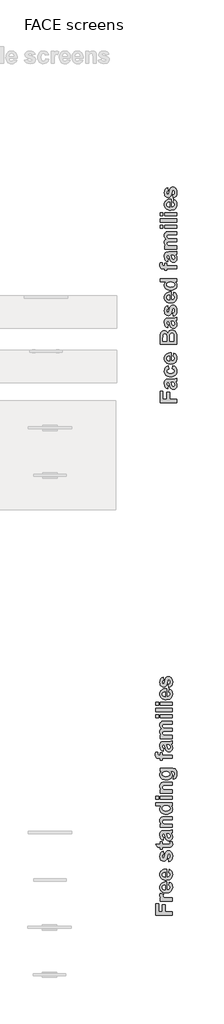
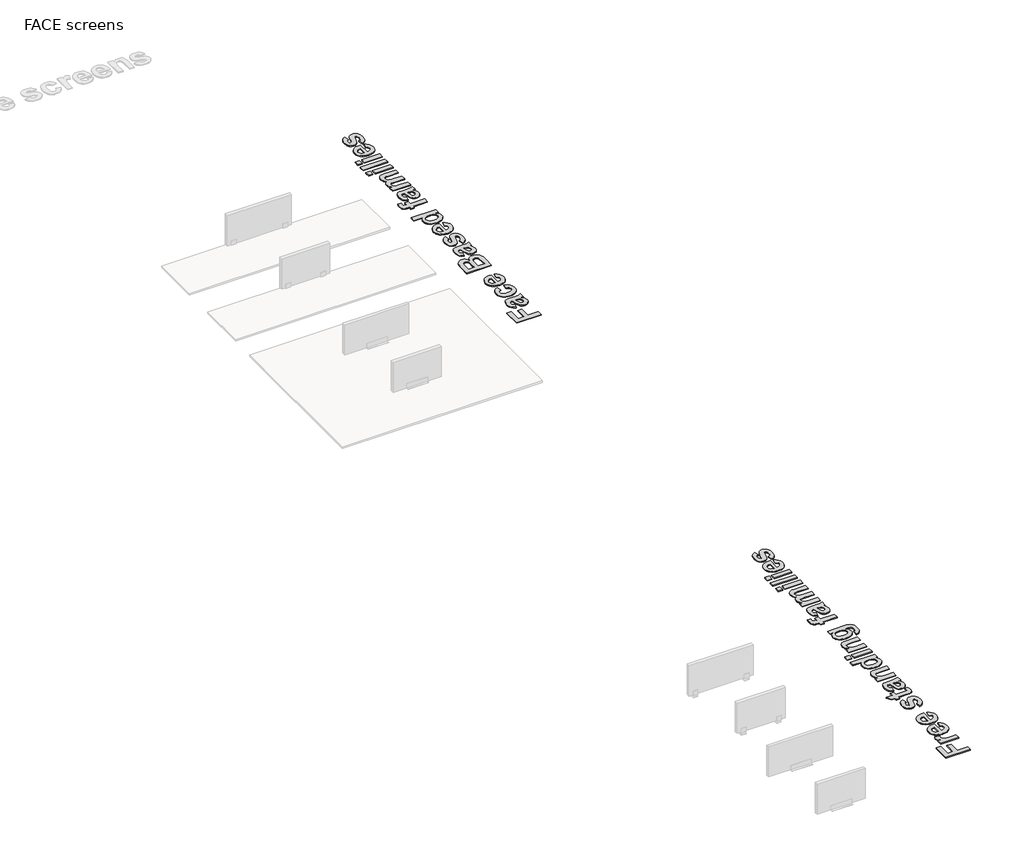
# One storey, part 4 of 5: 2 proxies.
"""IFC4 building model written with IfcOpenShell, lengths in millimetres."""

from ifc_helpers import new_model, si_unit, origin, origin_with_axes, place, context, project, spatial, polyline, outline, extrude, element, save

model = new_model("IFC4")

# Units and contexts
model_context = context("Model", 3, world=origin())
ifc_project = project(units=[si_unit("LENGTHUNIT", "METRE", prefix="MILLI")], contexts=[model_context])

# Site, building, storey
site = spatial("IfcSite", under=ifc_project)
building = spatial("IfcBuilding", under=site)
storey = spatial("IfcBuildingStorey", under=building, Name="FACE screens", Elevation=0.0)

# Proxies
placement = place(None, origin())
element("IfcBuildingElementProxy", 1, Name="300mm Arial", ObjectType="300mm Arial", at=placement, inside=storey, context=model_context, shape_type="SweptSolid", body=[
    extrude(outline(polyline([(13457.4869582, 22660.9583317), (13151.4091382, 22660.9583317), (13151.4091382, 22869.8685898), (13204.8512973, 22869.8685898), (13204.8512973, 22719.2588689), (13272.8685906, 22719.2588689), (13272.8685906, 22850.4350775), (13326.3107496, 22850.4350775), (13326.3107496, 22719.2588689), (13457.4869582, 22719.2588689), (13457.4869582, 22660.9583317)])), origin_with_axes(), (0.0, 0.0, 1.0), 10.0),
    extrude(outline(polyline([(13302.0188592, 22967.0361517), (13292.302103, 22913.5939927), (13264.2905168, 22925.1800858), (13244.6292679, 22942.9340417), (13233.0147078, 22968.8105984), (13229.1431877, 23004.7644941), (13231.4869756, 23037.2738757), (13238.5183392, 23060.2562814), (13249.1460413, 23075.7803177), (13262.2788446, 23085.9145907), (13282.689726, 23091.4941343), (13315.1516625, 23093.3539822), (13384.0799017, 23093.3539822), (13427.5016559, 23096.4284246), (13457.4869582, 23107.9291165), (13457.4869582, 23049.6285794), (13438.9643917, 23044.162904), (13431.6009124, 23042.1132757), (13445.0278753, 23027.0257344), (13454.6402523, 23010.9133789), (13460.4190653, 22993.7382532), (13462.3453363, 22975.4624012), (13457.6672496, 22945.7333025), (13443.6329894, 22923.0450563), (13422.4629864, 22908.6691915), (13396.3776712, 22903.8772365), (13378.5003581, 22906.0122659), (13362.6726732, 22912.4173542), (13349.596804, 22922.6749846), (13339.974938, 22936.36764), (13326.2348375, 22980.7762523), (13311.7356154, 23035.0534451), (13305.5867306, 23035.0534451), (13290.4422551, 23033.2410423), (13280.3838942, 23027.803834), (13274.7474165, 23017.3564233), (13272.8685906, 23000.5134133), (13274.481724, 22988.4244022), (13279.321124, 22979.3339213), (13288.2218245, 22972.463871), (13302.0188592, 22967.0361517)]), holes=[polyline([(13355.4610182, 23035.0534451), (13363.545663, 23002.1834808), (13372.7689902, 22972.7295636), (13381.0623934, 22964.8157211), (13391.3674688, 22962.1777736), (13401.7010113, 22964.293825), (13410.5352887, 22970.6419792), (13416.5987723, 22980.2543562), (13418.6199335, 22992.1630759), (13416.2666566, 23006.4535396), (13409.2068259, 23020.0228378), (13401.2740054, 23028.1833948), (13391.7470296, 23032.9279046), (13366.0128081, 23035.0534451), (13355.4610182, 23035.0534451)])]), origin_with_axes(), (0.0, 0.0, 1.0), 10.0),
    extrude(outline(polyline([(13297.1604811, 23336.272887), (13306.8772373, 23277.9723498), (13292.0458994, 23273.5030215), (13281.4087083, 23265.560712), (13275.00362, 23254.4300919), (13272.8685906, 23240.3958317), (13276.8729569, 23221.9112213), (13288.8860559, 23207.6017796), (13310.2743063, 23198.4353866), (13342.4041271, 23195.3799222), (13378.0259071, 23198.5587438), (13401.3878736, 23208.0952086), (13414.3119185, 23222.9834806), (13418.6199335, 23242.2177235), (13416.1622773, 23256.7833688), (13408.789309, 23268.445374), (13395.4003022, 23277.1468051), (13374.8945306, 23282.8307279), (13384.6112868, 23341.1312651), (13418.382708, 23328.3685335), (13442.7220435, 23307.5401353), (13457.4395131, 23278.4562898), (13462.3453363, 23240.9272168), (13460.4143208, 23218.4074008), (13454.6212743, 23198.2930513), (13444.9661967, 23180.5841682), (13431.4490881, 23165.2807517), (13414.5206769, 23152.9426538), (13394.6316916, 23144.1297267), (13371.7821321, 23138.8419705), (13345.9719985, 23137.0793851), (13319.8700775, 23138.8301092), (13296.8283654, 23144.0822816), (13276.8468621, 23152.8359023), (13259.9255677, 23165.0909713), (13246.4582765, 23180.3350814), (13236.8387827, 23198.0558258), (13231.0670865, 23218.2532042), (13229.1431877, 23240.9272168), (13233.3468235, 23276.0176118), (13245.9577307, 23303.099274), (13267.1656898, 23322.9313252), (13297.1604811, 23336.272887)])), origin_with_axes(), (0.0, 0.0, 1.0), 10.0),
    extrude(outline(polyline([(13389.4696649, 23511.1744984), (13399.1864211, 23569.4750355), (13426.3914406, 23555.279462), (13446.2140028, 23534.7072673), (13458.3125029, 23507.9672097), (13462.3453363, 23475.2680478), (13459.9683369, 23448.8648504), (13452.8373386, 23426.1339037), (13440.9523414, 23407.0752076), (13424.3133453, 23391.6887621), (13408.0918661, 23382.3230996), (13389.8682037, 23375.6333407), (13347.4143295, 23370.2815336), (13321.205657, 23372.0559803), (13297.9955148, 23377.3793204), (13277.7839028, 23386.2515538), (13260.570821, 23398.6726806), (13246.8212315, 23413.8076671), (13237.0000961, 23430.8214794), (13231.1074148, 23449.7141177), (13229.1431877, 23470.4855818), (13231.1596044, 23493.5676223), (13237.2088545, 23514.0781384), (13247.290938, 23532.0171302), (13261.4058548, 23547.3845976), (13279.6864513, 23559.6301776), (13302.2655737, 23568.2035069), (13329.143222, 23573.1045856), (13360.3193963, 23574.3334136), (13360.3193963, 23428.5820708), (13384.8769793, 23432.3207445), (13403.2856776, 23442.3221713), (13414.7863695, 23457.068108), (13418.6199335, 23475.0403113), (13416.8929319, 23487.2811467), (13411.7119271, 23497.4343978), (13402.6973584, 23505.4241524), (13389.4696649, 23511.1744984)]), holes=[polyline([(13326.3107496, 23516.0328765), (13303.2619208, 23512.4839831), (13286.4948229, 23503.0518975), (13276.2751487, 23489.349753), (13272.8685906, 23472.990683), (13276.4554401, 23455.7206672), (13287.2159884, 23441.7148741), (13304.2013337, 23432.529503), (13326.3107496, 23429.5689288), (13326.3107496, 23516.0328765)])]), origin_with_axes(), (0.0, 0.0, 1.0), 10.0),
    extrude(outline(polyline([(13151.4091382, 23734.6598908), (13151.4091382, 23860.2945118), (13154.4456245, 23915.9001673), (13159.1426893, 23933.2650734), (13167.160911, 23948.6942195), (13178.4338664, 23961.95038), (13192.8951324, 23972.7963296), (13209.9279228, 23980.0269626), (13228.9154513, 23982.4371736), (13249.6015143, 23979.5620006), (13268.5415976, 23970.9364817), (13284.3503045, 23957.3766725), (13295.6422379, 23939.6986288), (13306.6115447, 23962.0547592), (13323.2742633, 23978.5656536), (13344.5106895, 23988.7568607), (13369.2011188, 23992.1539298), (13389.7068904, 23989.7152517), (13409.6243428, 23982.3992175), (13427.2739194, 23970.8605695), (13440.9760639, 23955.7540502), (13450.4555946, 23936.899368), (13455.43733, 23914.1162316), (13457.4869582, 23839.2668441), (13457.4869582, 23734.6598908), (13151.4091382, 23734.6598908)]), holes=[polyline([(13204.8512973, 23792.9604279), (13272.8685906, 23792.9604279), (13272.8685906, 23837.4449523), (13271.8817325, 23886.7878549), (13268.3328392, 23902.3213801), (13261.3299426, 23914.1541877), (13251.2146476, 23921.6410243), (13238.3285588, 23924.1366365), (13226.0023222, 23921.982629), (13216.2001649, 23915.5206066), (13209.3396036, 23904.8264813), (13205.8381553, 23889.9761655), (13204.8512973, 23831.979277), (13204.8512973, 23792.9604279)]), polyline([(13326.3107496, 23792.9604279), (13404.0447992, 23792.9604279), (13404.0447992, 23854.6011), (13402.2229074, 23900.3002189), (13398.1521179, 23913.793605), (13390.6463033, 23924.5161972), (13379.8572879, 23931.5190938), (13365.936896, 23933.8533926), (13353.8668629, 23932.0504789), (13343.7705459, 23926.6417377), (13335.8946596, 23917.8359274), (13330.4859183, 23905.8418064), (13327.3545418, 23884.2827536), (13326.3107496, 23846.7821477), (13326.3107496, 23792.9604279)])]), origin_with_axes(), (0.0, 0.0, 1.0), 10.0),
    extrude(outline(polyline([(13302.0188592, 24089.3214917), (13292.302103, 24035.8793326), (13264.2905168, 24047.4654257), (13244.6292679, 24065.2193816), (13233.0147078, 24091.0959384), (13229.1431877, 24127.0498341), (13231.4869756, 24159.5592156), (13238.5183392, 24182.5416214), (13249.1460413, 24198.0656576), (13262.2788446, 24208.1999307), (13282.689726, 24213.7794743), (13315.1516625, 24215.6393222), (13384.0799017, 24215.6393222), (13427.5016559, 24218.7137645), (13457.4869582, 24230.2144564), (13457.4869582, 24171.9139193), (13438.9643917, 24166.4482439), (13431.6009124, 24164.3986157), (13445.0278753, 24149.3110743), (13454.6402523, 24133.1987189), (13460.4190653, 24116.0235932), (13462.3453363, 24097.7477412), (13457.6672496, 24068.0186424), (13443.6329894, 24045.3303963), (13422.4629864, 24030.9545314), (13396.3776712, 24026.1625765), (13378.5003581, 24028.2976059), (13362.6726732, 24034.7026942), (13349.596804, 24044.9603245), (13339.974938, 24058.65298), (13326.2348375, 24103.0615922), (13311.7356154, 24157.338785), (13305.5867306, 24157.338785), (13290.4422551, 24155.5263823), (13280.3838942, 24150.089174), (13274.7474165, 24139.6417632), (13272.8685906, 24122.7987532), (13274.481724, 24110.7097421), (13279.321124, 24101.6192612), (13288.2218245, 24094.749211), (13302.0188592, 24089.3214917)]), holes=[polyline([(13355.4610182, 24157.338785), (13363.545663, 24124.4688207), (13372.7689902, 24095.0149035), (13381.0623934, 24087.1010611), (13391.3674688, 24084.4631136), (13401.7010113, 24086.579165), (13410.5352887, 24092.9273192), (13416.5987723, 24102.5396962), (13418.6199335, 24114.4484159), (13416.2666566, 24128.7388796), (13409.2068259, 24142.3081778), (13401.2740054, 24150.4687347), (13391.7470296, 24155.2132446), (13366.0128081, 24157.338785), (13355.4610182, 24157.338785)])]), origin_with_axes(), (0.0, 0.0, 1.0), 10.0),
    extrude(outline(polyline([(13394.328043, 24249.6479688), (13384.6112868, 24307.948506), (13399.3002893, 24313.4995825), (13409.9659475, 24322.865245), (13416.456437, 24336.36812), (13418.6199335, 24354.3308343), (13416.5513272, 24373.8212808), (13410.3455083, 24387.8080959), (13403.5893262, 24393.5015077), (13394.8594281, 24395.3993117), (13383.9280774, 24391.3759673), (13376.2609494, 24372.3220157), (13361.3442104, 24316.0141727), (13347.7179781, 24284.9471222), (13337.806697, 24273.7548234), (13326.1399473, 24265.7603243), (13312.7177289, 24260.9636248), (13297.5400419, 24259.364725), (13270.9138525, 24264.8493784), (13248.8803488, 24281.3033386), (13240.2453408, 24293.786144), (13234.077478, 24309.2959468), (13229.1431877, 24349.3965441), (13233.128576, 24387.6372935), (13245.0847409, 24414.6050876), (13264.859858, 24432.615247), (13292.302103, 24443.9830926), (13302.0188592, 24385.6825555), (13289.5502873, 24381.3935186), (13280.3838942, 24374.4475561), (13274.7474165, 24364.4271513), (13272.8685906, 24350.9147872), (13274.4627459, 24334.3090027), (13279.2452118, 24323.2068497), (13291.0875085, 24317.6652622), (13301.6392984, 24323.2068497), (13308.6042389, 24339.8221232), (13317.9604123, 24374.7891608), (13329.7457748, 24412.2612997), (13343.9982824, 24436.3918769), (13362.8055195, 24449.3728558), (13387.7995974, 24453.6998488), (13402.5573953, 24452.1317883), (13416.2381895, 24447.4276068), (13440.3687666, 24428.6108807), (13449.9835159, 24414.5600147), (13456.8511939, 24397.496385), (13462.3453363, 24354.3308343), (13457.7716288, 24314.3535943), (13444.0505063, 24283.6945716), (13422.4724755, 24262.1829639), (13394.328043, 24249.6479688)])), origin_with_axes(), (0.0, 0.0, 1.0), 10.0),
    extrude(outline(polyline([(13389.4696649, 24633.4598383), (13399.1864211, 24691.7603755), (13426.3914406, 24677.564802), (13446.2140028, 24656.9926072), (13458.3125029, 24630.2525497), (13462.3453363, 24597.5533877), (13459.9683369, 24571.1501904), (13452.8373386, 24548.4192436), (13440.9523414, 24529.3605475), (13424.3133453, 24513.9741021), (13408.0918661, 24504.6084396), (13389.8682037, 24497.9186807), (13347.4143295, 24492.5668736), (13321.205657, 24494.3413203), (13297.9955148, 24499.6646603), (13277.7839028, 24508.5368938), (13260.570821, 24520.9580206), (13246.8212315, 24536.093007), (13237.0000961, 24553.1068194), (13231.1074148, 24571.9994576), (13229.1431877, 24592.7709218), (13231.1596044, 24615.8529622), (13237.2088545, 24636.3634784), (13247.290938, 24654.3024701), (13261.4058548, 24669.6699376), (13279.6864513, 24681.9155175), (13302.2655737, 24690.4888468), (13329.143222, 24695.3899255), (13360.3193963, 24696.6187536), (13360.3193963, 24550.8674107), (13384.8769793, 24554.6060845), (13403.2856776, 24564.6075113), (13414.7863695, 24579.3534479), (13418.6199335, 24597.3256512), (13416.8929319, 24609.5664867), (13411.7119271, 24619.7197378), (13402.6973584, 24627.7094924), (13389.4696649, 24633.4598383)]), holes=[polyline([(13326.3107496, 24638.3182164), (13303.2619208, 24634.7693231), (13286.4948229, 24625.3372375), (13276.2751487, 24611.635093), (13272.8685906, 24595.276023), (13276.4554401, 24578.0060071), (13287.2159884, 24564.000214), (13304.2013337, 24554.8148429), (13326.3107496, 24551.8542688), (13326.3107496, 24638.3182164)])]), origin_with_axes(), (0.0, 0.0, 1.0), 10.0),
    extrude(outline(polyline([(13457.4869582, 24939.5376583), (13457.4869582, 24881.2371212), (13425.3002033, 24881.2371212), (13441.6497843, 24867.0130806), (13453.1979213, 24850.4547412), (13460.0584826, 24832.6628292), (13462.3453363, 24814.738071), (13460.4095763, 24797.0623995), (13454.6022962, 24780.7009573), (13444.9234961, 24765.6537443), (13431.373176, 24751.9207605), (13414.3546191, 24740.479375), (13394.2711089, 24732.3069567), (13371.1226453, 24727.4035058), (13344.9092283, 24725.7690221), (13318.2545719, 24727.4011335), (13294.9969846, 24732.2974677), (13275.1364663, 24740.4580247), (13258.6730171, 24751.8828044), (13245.7537168, 24765.8031963), (13236.5256451, 24781.4505898), (13230.9888021, 24798.8249849), (13229.1431877, 24817.9263816), (13231.0552252, 24835.6044254), (13236.7913376, 24852.0488965), (13246.351525, 24867.2597951), (13259.7357873, 24881.2371212), (13151.4091382, 24881.2371212), (13151.4091382, 24939.5376583), (13457.4869582, 24939.5376583)]), holes=[polyline([(13341.4931812, 24784.0695593), (13373.2244631, 24786.4987483), (13394.7835159, 24793.7863155), (13412.6608291, 24810.6198364), (13417.1301574, 24821.1289258), (13418.6199335, 24833.032901), (13414.1506052, 24851.6313797), (13400.7426203, 24867.193372), (13378.452913, 24877.7261839), (13347.3384173, 24881.2371212), (13313.2633475, 24877.8305631), (13290.2904308, 24867.6108889), (13277.2240507, 24852.0583855), (13272.8685906, 24832.6533402), (13277.1766056, 24813.6753008), (13290.1006504, 24798.0373963), (13311.564813, 24787.5615185), (13341.4931812, 24784.0695593)])]), origin_with_axes(), (0.0, 0.0, 1.0), 10.0),
    extrude(outline(polyline([(13234.0015658, 25090.1473793), (13234.0015658, 25119.2976478), (13217.6804519, 25119.2976478), (13193.8250564, 25120.7779349), (13176.9156232, 25125.2187961), (13164.7222329, 25133.6260676), (13155.0149657, 25147.0055854), (13148.6668115, 25164.9777888), (13146.5507601, 25187.1631168), (13148.3726519, 25211.796612), (13153.8383273, 25235.8987221), (13193.5403858, 25228.611155), (13190.276163, 25201.5105147), (13191.737472, 25190.5506969), (13196.1213991, 25183.1777286), (13204.6615169, 25178.9930709), (13218.5913978, 25177.598185), (13234.0015658, 25177.598185), (13234.0015658, 25221.3235878), (13277.7269687, 25221.3235878), (13277.7269687, 25177.598185), (13457.4869582, 25177.598185), (13457.4869582, 25119.2976478), (13277.7269687, 25119.2976478), (13277.7269687, 25090.1473793), (13234.0015658, 25090.1473793)])), origin_with_axes(), (0.0, 0.0, 1.0), 10.0),
    extrude(outline(polyline([(13302.0188592, 25303.9160154), (13292.302103, 25250.4738564), (13264.2905168, 25262.0599495), (13244.6292679, 25279.8139054), (13233.0147078, 25305.6904621), (13229.1431877, 25341.6443578), (13231.4869756, 25374.1537394), (13238.5183392, 25397.1361451), (13249.1460413, 25412.6601814), (13262.2788446, 25422.7944545), (13282.689726, 25428.3739981), (13315.1516625, 25430.2338459), (13384.0799017, 25430.2338459), (13427.5016559, 25433.3082883), (13457.4869582, 25444.8089802), (13457.4869582, 25386.5084431), (13438.9643917, 25381.0427677), (13431.6009124, 25378.9931394), (13445.0278753, 25363.9055981), (13454.6402523, 25347.7932426), (13460.4190653, 25330.6181169), (13462.3453363, 25312.342265), (13457.6672496, 25282.6131662), (13443.6329894, 25259.92492), (13422.4629864, 25245.5490552), (13396.3776712, 25240.7571002), (13378.5003581, 25242.8921296), (13362.6726732, 25249.297218), (13349.596804, 25259.5548483), (13339.974938, 25273.2475037), (13326.2348375, 25317.656116), (13311.7356154, 25371.9333088), (13305.5867306, 25371.9333088), (13290.4422551, 25370.120906), (13280.3838942, 25364.6836977), (13274.7474165, 25354.236287), (13272.8685906, 25337.393277), (13274.481724, 25325.3042659), (13279.321124, 25316.213785), (13288.2218245, 25309.3437347), (13302.0188592, 25303.9160154)]), holes=[polyline([(13355.4610182, 25371.9333088), (13363.545663, 25339.0633445), (13372.7689902, 25309.6094273), (13381.0623934, 25301.6955848), (13391.3674688, 25299.0576374), (13401.7010113, 25301.1736887), (13410.5352887, 25307.5218429), (13416.5987723, 25317.1342199), (13418.6199335, 25329.0429397), (13416.2666566, 25343.3334033), (13409.2068259, 25356.9027015), (13401.2740054, 25365.0632585), (13391.7470296, 25369.8077684), (13366.0128081, 25371.9333088), (13355.4610182, 25371.9333088)])]), origin_with_axes(), (0.0, 0.0, 1.0), 10.0),
    extrude(outline(polyline([(13234.0015658, 25483.676005), (13234.0015658, 25541.9765421), (13263.910956, 25541.9765421), (13248.7000574, 25556.3286844), (13237.8351298, 25571.9808224), (13231.3161733, 25588.9329562), (13229.1431877, 25607.1850856), (13231.2782172, 25625.9638556), (13237.6833055, 25642.0667221), (13248.4153868, 25655.512663), (13263.5313952, 25666.3206565), (13248.4153868, 25681.2468845), (13237.6833055, 25697.3307729), (13231.2782172, 25714.5533437), (13229.1431877, 25732.8956188), (13231.6387999, 25755.0429908), (13239.1256365, 25773.5086232), (13251.4518731, 25788.0458014), (13268.4656855, 25798.4078109), (13287.1590543, 25802.8486722), (13314.6961895, 25804.3289592), (13457.4869582, 25804.3289592), (13457.4869582, 25746.0284221), (13328.8158509, 25746.0284221), (13301.2787156, 25744.548135), (13285.6218331, 25740.1072738), (13276.0569012, 25730.0489129), (13272.8685906, 25715.663559), (13274.7758836, 25704.0205318), (13280.4977625, 25693.0796921), (13289.901381, 25683.9702331), (13302.8538929, 25677.8213484), (13321.8509104, 25674.3199001), (13349.3880456, 25673.1527507), (13457.4869582, 25673.1527507), (13457.4869582, 25614.8522135), (13334.1297019, 25614.8522135), (13291.7327618, 25611.8157272), (13277.5371883, 25602.4405757), (13272.8685906, 25585.1705599), (13274.7189494, 25572.7019879), (13280.270026, 25561.5618788), (13289.3225508, 25552.5662881), (13301.6772545, 25546.5312716), (13348.0975389, 25541.9765421), (13457.4869582, 25541.9765421), (13457.4869582, 25483.676005), (13234.0015658, 25483.676005)])), origin_with_axes(), (0.0, 0.0, 1.0), 10.0),
    extrude(outline(polyline([(13457.4869582, 25862.6294964), (13234.0015658, 25862.6294964), (13234.0015658, 25920.9300335), (13457.4869582, 25920.9300335), (13457.4869582, 25862.6294964)])), origin_with_axes(), (0.0, 0.0, 1.0), 10.0),
    extrude(outline(polyline([(13204.8512973, 25862.6294964), (13151.4091382, 25862.6294964), (13151.4091382, 25920.9300335), (13204.8512973, 25920.9300335), (13204.8512973, 25862.6294964)])), origin_with_axes(), (0.0, 0.0, 1.0), 10.0),
    extrude(outline(polyline([(13457.4869582, 25979.2305707), (13151.4091382, 25979.2305707), (13151.4091382, 26037.5311078), (13457.4869582, 26037.5311078), (13457.4869582, 25979.2305707)])), origin_with_axes(), (0.0, 0.0, 1.0), 10.0),
    extrude(outline(polyline([(13457.4869582, 26095.8316449), (13234.0015658, 26095.8316449), (13234.0015658, 26154.1321821), (13457.4869582, 26154.1321821), (13457.4869582, 26095.8316449)])), origin_with_axes(), (0.0, 0.0, 1.0), 10.0),
    extrude(outline(polyline([(13204.8512973, 26095.8316449), (13151.4091382, 26095.8316449), (13151.4091382, 26154.1321821), (13204.8512973, 26154.1321821), (13204.8512973, 26095.8316449)])), origin_with_axes(), (0.0, 0.0, 1.0), 10.0),
    extrude(outline(polyline([(13389.4696649, 26338.7505497), (13399.1864211, 26397.0510868), (13426.3914406, 26382.8555133), (13446.2140028, 26362.2833186), (13458.3125029, 26335.543261), (13462.3453363, 26302.8440991), (13459.9683369, 26276.4409017), (13452.8373386, 26253.709955), (13440.9523414, 26234.6512589), (13424.3133453, 26219.2648134), (13408.0918661, 26209.899151), (13389.8682037, 26203.2093921), (13347.4143295, 26197.8575849), (13321.205657, 26199.6320316), (13297.9955148, 26204.9553717), (13277.7839028, 26213.8276051), (13260.570821, 26226.2487319), (13246.8212315, 26241.3837184), (13237.0000961, 26258.3975307), (13231.1074148, 26277.290169), (13229.1431877, 26298.0616331), (13231.1596044, 26321.1436736), (13237.2088545, 26341.6541897), (13247.290938, 26359.5931815), (13261.4058548, 26374.9606489), (13279.6864513, 26387.2062289), (13302.2655737, 26395.7795582), (13329.143222, 26400.6806369), (13360.3193963, 26401.9094649), (13360.3193963, 26256.1581221), (13384.8769793, 26259.8967958), (13403.2856776, 26269.8982226), (13414.7863695, 26284.6441593), (13418.6199335, 26302.6163626), (13416.8929319, 26314.857198), (13411.7119271, 26325.0104491), (13402.6973584, 26333.0002037), (13389.4696649, 26338.7505497)]), holes=[polyline([(13326.3107496, 26343.6089278), (13303.2619208, 26340.0600344), (13286.4948229, 26330.6279488), (13276.2751487, 26316.9258043), (13272.8685906, 26300.5667343), (13276.4554401, 26283.2967185), (13287.2159884, 26269.2909254), (13304.2013337, 26260.1055543), (13326.3107496, 26257.1449801), (13326.3107496, 26343.6089278)])]), origin_with_axes(), (0.0, 0.0, 1.0), 10.0),
    extrude(outline(polyline([(13394.328043, 26421.3429773), (13384.6112868, 26479.6435144), (13399.3002893, 26485.194591), (13409.9659475, 26494.5602534), (13416.456437, 26508.0631285), (13418.6199335, 26526.0258428), (13416.5513272, 26545.5162893), (13410.3455083, 26559.5031044), (13403.5893262, 26565.1965162), (13394.8594281, 26567.0943202), (13383.9280774, 26563.0709758), (13376.2609494, 26544.0170242), (13361.3442104, 26487.7091812), (13347.7179781, 26456.6421307), (13337.806697, 26445.4498319), (13326.1399473, 26437.4553328), (13312.7177289, 26432.6586333), (13297.5400419, 26431.0597335), (13270.9138525, 26436.5443869), (13248.8803488, 26452.9983471), (13240.2453408, 26465.4811525), (13234.077478, 26480.9909552), (13229.1431877, 26521.0915526), (13233.128576, 26559.332302), (13245.0847409, 26586.3000961), (13264.859858, 26604.3102555), (13292.302103, 26615.6781011), (13302.0188592, 26557.377564), (13289.5502873, 26553.0885271), (13280.3838942, 26546.1425646), (13274.7474165, 26536.1221598), (13272.8685906, 26522.6097957), (13274.4627459, 26506.0040112), (13279.2452119, 26494.9018581), (13291.0875085, 26489.3602706), (13301.6392984, 26494.9018581), (13308.6042389, 26511.5171317), (13317.9604123, 26546.4841693), (13329.7457748, 26583.9563082), (13343.9982824, 26608.0868853), (13362.8055195, 26621.0678643), (13387.7995974, 26625.3948573), (13402.5573953, 26623.8267968), (13416.2381895, 26619.1226153), (13440.3687666, 26600.3058892), (13449.9835159, 26586.2550232), (13456.8511939, 26569.1913935), (13462.3453363, 26526.0258428), (13457.7716288, 26486.0486028), (13444.0505063, 26455.38958), (13422.4724755, 26433.8779723), (13394.328043, 26421.3429773)])), origin_with_axes(), (0.0, 0.0, 1.0), 10.0),
])
element("IfcBuildingElementProxy", 2, Name="300mm Arial", ObjectType="300mm Arial", at=placement, inside=storey, context=model_context, shape_type="SweptSolid", body=[
    extrude(outline(polyline([(13374.8945306, 13238.2794375), (13068.8167106, 13238.2794375), (13068.8167106, 13447.1896956), (13122.2588697, 13447.1896956), (13122.2588697, 13296.5799746), (13190.276163, 13296.5799746), (13190.276163, 13427.7561832), (13243.718322, 13427.7561832), (13243.718322, 13296.5799746), (13374.8945306, 13296.5799746), (13374.8945306, 13238.2794375)])), origin_with_axes(), (0.0, 0.0, 1.0), 10.0),
    extrude(outline(polyline([(13374.8945306, 13554.0740137), (13374.8945306, 13495.7734765), (13151.4091382, 13495.7734765), (13151.4091382, 13554.0740137), (13182.5331229, 13554.0740137), (13164.2288039, 13566.3907612), (13153.4967226, 13577.3790461), (13148.2872507, 13588.424265), (13146.5507601, 13600.911815), (13149.6252025, 13619.1117548), (13158.8485297, 13636.6664413), (13214.340317, 13619.6621179), (13207.2235522, 13605.6183688), (13204.8512973, 13592.6373898), (13206.5118757, 13581.4308575), (13211.4936111, 13572.1031511), (13220.8023394, 13564.6068255), (13235.4438968, 13558.8944357), (13262.2408885, 13555.2791192), (13308.0159196, 13554.0740137), (13374.8945306, 13554.0740137)])), origin_with_axes(), (0.0, 0.0, 1.0), 10.0),
    extrude(outline(polyline([(13306.8772373, 13787.2761622), (13316.5939935, 13845.5766994), (13343.799013, 13831.3811259), (13363.6215752, 13810.8089311), (13375.7200753, 13784.0688736), (13379.7529087, 13751.3697116), (13377.3759093, 13724.9665142), (13370.2449109, 13702.2355675), (13358.3599137, 13683.1768714), (13341.7209177, 13667.7904259), (13325.4994385, 13658.4247635), (13307.2757761, 13651.7350046), (13264.8219019, 13646.3831975), (13238.6132294, 13648.1576441), (13215.4030872, 13653.4809842), (13195.1914752, 13662.3532176), (13177.9783934, 13674.7743445), (13164.2288039, 13689.9093309), (13154.4076685, 13706.9231433), (13148.5149872, 13725.8157815), (13146.5507601, 13746.5872457), (13148.5671768, 13769.6692861), (13154.6164269, 13790.1798023), (13164.6985103, 13808.118794), (13178.8134272, 13823.4862615), (13197.0940237, 13835.7318414), (13219.6731461, 13844.3051707), (13246.5507944, 13849.2062494), (13277.7269687, 13850.4350775), (13277.7269687, 13704.6837346), (13302.2845517, 13708.4224084), (13320.69325, 13718.4238352), (13332.1939419, 13733.1697718), (13336.0275058, 13751.1419751), (13334.3005042, 13763.3828106), (13329.1194995, 13773.5360617), (13320.1049308, 13781.5258163), (13306.8772373, 13787.2761622)]), holes=[polyline([(13243.718322, 13792.1345403), (13220.6694931, 13788.5856469), (13203.9023953, 13779.1535613), (13193.6827211, 13765.4514169), (13190.276163, 13749.0923469), (13193.8630124, 13731.822331), (13204.6235608, 13717.8165379), (13221.6089061, 13708.6311668), (13243.718322, 13705.6705927), (13243.718322, 13792.1345403)])]), origin_with_axes(), (0.0, 0.0, 1.0), 10.0),
    extrude(outline(polyline([(13306.8772373, 14020.4783108), (13316.5939935, 14078.7788479), (13343.799013, 14064.5832744), (13363.6215752, 14044.0110797), (13375.7200753, 14017.2710221), (13379.7529087, 13984.5718602), (13377.3759093, 13958.1686628), (13370.2449109, 13935.4377161), (13358.3599137, 13916.37902), (13341.7209177, 13900.9925745), (13325.4994385, 13891.626912), (13307.2757761, 13884.9371531), (13264.8219019, 13879.585346), (13238.6132294, 13881.3597927), (13215.4030872, 13886.6831328), (13195.1914752, 13895.5553662), (13177.9783934, 13907.976493), (13164.2288039, 13923.1114795), (13154.4076685, 13940.1252918), (13148.5149872, 13959.0179301), (13146.5507601, 13979.7893942), (13148.5671768, 14002.8714347), (13154.6164269, 14023.3819508), (13164.6985103, 14041.3209426), (13178.8134272, 14056.68841), (13197.0940237, 14068.93399), (13219.6731461, 14077.5073193), (13246.5507944, 14082.408398), (13277.7269687, 14083.637226), (13277.7269687, 13937.8858832), (13302.2845517, 13941.6245569), (13320.69325, 13951.6259837), (13332.1939419, 13966.3719204), (13336.0275058, 13984.3441237), (13334.3005042, 13996.5849591), (13329.1194995, 14006.7382102), (13320.1049308, 14014.7279648), (13306.8772373, 14020.4783108)]), holes=[polyline([(13243.718322, 14025.3366889), (13220.6694931, 14021.7877955), (13203.9023953, 14012.3557099), (13193.6827211, 13998.6535654), (13190.276163, 13982.2944954), (13193.8630124, 13965.0244796), (13204.6235608, 13951.0186865), (13221.6089061, 13941.8333154), (13243.718322, 13938.8727412), (13243.718322, 14025.3366889)])]), origin_with_axes(), (0.0, 0.0, 1.0), 10.0),
    extrude(outline(polyline([(13311.7356154, 14219.6718127), (13302.0188592, 14277.9723498), (13316.7078617, 14283.5234264), (13327.3735199, 14292.8890888), (13333.8640093, 14306.3919639), (13336.0275058, 14324.3546782), (13333.9588995, 14343.8451247), (13327.7530806, 14357.8319398), (13320.9968986, 14363.5253516), (13312.2670005, 14365.4231555), (13301.3356498, 14361.3998112), (13293.6685218, 14342.3458596), (13278.7517828, 14286.0380166), (13265.1255505, 14254.970966), (13255.2142694, 14243.7786673), (13243.5475197, 14235.7841682), (13230.1253013, 14230.9874687), (13214.9476142, 14229.3885689), (13188.3214249, 14234.8732223), (13166.2879211, 14251.3271825), (13157.6529132, 14263.8099879), (13151.4850504, 14279.3197906), (13146.5507601, 14319.4203879), (13150.5361484, 14357.6611374), (13162.4923133, 14384.6289314), (13182.2674303, 14402.6390909), (13209.7096754, 14414.0069365), (13219.4264316, 14355.7063993), (13206.9578596, 14351.4173624), (13197.7914666, 14344.4714), (13192.1549889, 14334.4509952), (13190.276163, 14320.9386311), (13191.8703183, 14304.3328466), (13196.6527842, 14293.2306935), (13208.4950808, 14287.689106), (13219.0468708, 14293.2306935), (13226.0118112, 14309.845967), (13235.3679847, 14344.8130047), (13247.1533472, 14382.2851436), (13261.4058548, 14406.4157207), (13280.2130919, 14419.3966997), (13305.2071698, 14423.7236927), (13319.9649677, 14422.1556322), (13333.6457619, 14417.4514506), (13357.776339, 14398.6347245), (13367.3910883, 14384.5838586), (13374.2587663, 14367.5202289), (13379.7529087, 14324.3546782), (13375.1792012, 14284.3774381), (13361.4580787, 14253.7184154), (13339.8800478, 14232.2068077), (13311.7356154, 14219.6718127)])), origin_with_axes(), (0.0, 0.0, 1.0), 10.0),
    extrude(outline(polyline([(13151.4091382, 14584.0501698), (13195.1345411, 14584.0501698), (13195.1345411, 14540.3247669), (13291.0115963, 14540.3247669), (13324.9063747, 14541.6532297), (13332.8771513, 14547.6882462), (13336.0275058, 14559.1509821), (13330.4100062, 14586.4793589), (13371.8580443, 14588.9085479), (13377.7791926, 14566.4195712), (13379.7529087, 14541.1598007), (13374.2872333, 14511.7058835), (13368.0244803, 14500.3285488), (13360.167572, 14492.4621515), (13336.7107153, 14483.9220338), (13294.2758191, 14482.0242298), (13195.1345411, 14482.0242298), (13195.1345411, 14452.8739612), (13151.4091382, 14452.8739612), (13151.4091382, 14482.0242298), (13107.6837354, 14482.0242298), (13073.6750887, 14540.3247669), (13151.4091382, 14540.3247669), (13151.4091382, 14584.0501698)])), origin_with_axes(), (0.0, 0.0, 1.0), 10.0),
    extrude(outline(polyline([(13219.4264316, 14666.6425974), (13209.7096754, 14613.2004384), (13181.6980892, 14624.7865314), (13162.0368403, 14642.5404873), (13150.4222802, 14668.4170441), (13146.5507601, 14704.3709398), (13148.894548, 14736.8803214), (13155.9259116, 14759.8627271), (13166.5536137, 14775.3867634), (13179.686417, 14785.5210364), (13200.0972984, 14791.10058), (13232.5592348, 14792.9604279), (13301.4874741, 14792.9604279), (13344.9092283, 14796.0348703), (13374.8945306, 14807.5355622), (13374.8945306, 14749.235025), (13356.3719641, 14743.7693497), (13349.0084848, 14741.7197214), (13362.4354477, 14726.6321801), (13372.0478247, 14710.5198246), (13377.8266377, 14693.3446989), (13379.7529087, 14675.0688469), (13375.074822, 14645.3397482), (13361.0405618, 14622.651502), (13339.8705588, 14608.2756371), (13313.7852436, 14603.4836822), (13295.9079305, 14605.6187116), (13280.0802456, 14612.0237999), (13267.0043764, 14622.2814302), (13257.3825104, 14635.9740857), (13243.6424099, 14680.382698), (13229.1431877, 14734.6598908), (13222.994303, 14734.6598908), (13207.8498275, 14732.847488), (13197.7914666, 14727.4102797), (13192.1549889, 14716.962869), (13190.276163, 14700.119859), (13191.8892963, 14688.0308479), (13196.7286964, 14678.940367), (13205.6293969, 14672.0703167), (13219.4264316, 14666.6425974)]), holes=[polyline([(13272.8685906, 14734.6598908), (13280.9532354, 14701.7899265), (13290.1765626, 14672.3360092), (13298.4699658, 14664.4221668), (13308.7750412, 14661.7842193), (13319.1085837, 14663.9002707), (13327.942861, 14670.2484249), (13334.0063446, 14679.8608019), (13336.0275058, 14691.7695216), (13333.6742289, 14706.0599853), (13326.6143983, 14719.6292835), (13318.6815778, 14727.7898405), (13309.154602, 14732.5343503), (13283.4203805, 14734.6598908), (13272.8685906, 14734.6598908)])]), origin_with_axes(), (0.0, 0.0, 1.0), 10.0),
    extrude(outline(polyline([(13374.8945306, 15050.4544669), (13374.8945306, 14992.1539298), (13260.0394359, 14992.1539298), (13212.8220738, 14988.5101462), (13203.3140761, 14983.7087022), (13196.1973113, 14976.5919375), (13191.7564501, 14967.5014566), (13190.276163, 14956.7788643), (13192.3922144, 14942.668692), (13198.7403686, 14930.0957408), (13208.589971, 14920.1512482), (13221.2103673, 14913.9264512), (13272.9445028, 14909.5615022), (13374.8945306, 14909.5615022), (13374.8945306, 14851.260965), (13151.4091382, 14851.260965), (13151.4091382, 14909.5615022), (13183.5958931, 14909.5615022), (13167.3886474, 14924.3121833), (13155.8120434, 14940.8562892), (13148.8660809, 14959.1938198), (13146.5507601, 14979.3247751), (13148.3157178, 14997.050264), (13153.6105908, 15013.1815975), (13161.6383015, 15026.6560055), (13171.6017722, 15036.4107177), (13196.3870917, 15047.3800245), (13236.1271063, 15050.4544669), (13374.8945306, 15050.4544669)])), origin_with_axes(), (0.0, 0.0, 1.0), 10.0),
    extrude(outline(polyline([(13374.8945306, 15307.948506), (13374.8945306, 15249.6479688), (13342.7077757, 15249.6479688), (13359.0573567, 15235.4239283), (13370.6054937, 15218.8655889), (13377.4660549, 15201.0736769), (13379.7529087, 15183.1489186), (13377.8171487, 15165.4732472), (13372.0098686, 15149.1118049), (13362.3310685, 15134.0645919), (13348.7807483, 15120.3316081), (13331.7621915, 15108.8902226), (13311.6786812, 15100.7178044), (13288.5302176, 15095.8143534), (13262.3168007, 15094.1798698), (13235.6621443, 15095.8119812), (13212.404557, 15100.7083153), (13192.5440387, 15108.8688723), (13176.0805895, 15120.293652), (13163.1612891, 15134.214044), (13153.9332175, 15149.8614375), (13148.3963745, 15167.2358326), (13146.5507601, 15186.3372293), (13148.4627976, 15204.015273), (13154.19891, 15220.4597442), (13163.7590974, 15235.6706428), (13177.1433597, 15249.6479688), (13068.8167106, 15249.6479688), (13068.8167106, 15307.948506), (13374.8945306, 15307.948506)]), holes=[polyline([(13258.9007536, 15152.4804069), (13290.6320355, 15154.909596), (13312.1910883, 15162.1971631), (13330.0684015, 15179.0306841), (13334.5377297, 15189.5397734), (13336.0275058, 15201.4437487), (13331.5581775, 15220.0422273), (13318.1501927, 15235.6042196), (13295.8604854, 15246.1370315), (13264.7459897, 15249.6479688), (13230.6709199, 15246.2414107), (13207.6980032, 15236.0217365), (13194.631623, 15220.4692332), (13190.276163, 15201.0641879), (13194.5841779, 15182.0861484), (13207.5082228, 15166.4482439), (13228.9723854, 15155.9723662), (13258.9007536, 15152.4804069)])]), origin_with_axes(), (0.0, 0.0, 1.0), 10.0),
    extrude(outline(polyline([(13374.8945306, 15366.2490431), (13151.4091382, 15366.2490431), (13151.4091382, 15424.5495802), (13374.8945306, 15424.5495802), (13374.8945306, 15366.2490431)])), origin_with_axes(), (0.0, 0.0, 1.0), 10.0),
    extrude(outline(polyline([(13122.2588697, 15366.2490431), (13068.8167106, 15366.2490431), (13068.8167106, 15424.5495802), (13122.2588697, 15424.5495802), (13122.2588697, 15366.2490431)])), origin_with_axes(), (0.0, 0.0, 1.0), 10.0),
    extrude(outline(polyline([(13374.8945306, 15682.0436193), (13374.8945306, 15623.7430821), (13260.0394359, 15623.7430821), (13212.8220738, 15620.0992986), (13203.3140761, 15615.2978546), (13196.1973113, 15608.1810898), (13191.7564501, 15599.0906089), (13190.276163, 15588.3680166), (13192.3922144, 15574.2578443), (13198.7403686, 15561.6848932), (13208.589971, 15551.7404005), (13221.2103673, 15545.5156036), (13272.9445028, 15541.1506545), (13374.8945306, 15541.1506545), (13374.8945306, 15482.8501174), (13151.4091382, 15482.8501174), (13151.4091382, 15541.1506545), (13183.5958931, 15541.1506545), (13167.3886474, 15555.9013357), (13155.8120434, 15572.4454416), (13148.8660809, 15590.7829722), (13146.5507601, 15610.9139275), (13148.3157178, 15628.6394163), (13153.6105908, 15644.7707498), (13161.6383015, 15658.2451578), (13171.6017722, 15667.9998701), (13196.3870917, 15678.9691769), (13236.1271063, 15682.0436193), (13374.8945306, 15682.0436193)])), origin_with_axes(), (0.0, 0.0, 1.0), 10.0),
    extrude(outline(polyline([(13389.4696649, 15735.4857783), (13399.1864211, 15803.5030717), (13407.7644949, 15806.1030631), (13413.1542581, 15810.7147266), (13417.2535146, 15820.8300217), (13418.6199335, 15835.3861779), (13416.8929319, 15854.2503491), (13411.7119271, 15867.7247571), (13396.757232, 15878.6561078), (13369.5806796, 15881.2371212), (13337.0143639, 15881.2371212), (13353.5869368, 15866.2017694), (13365.4244889, 15849.9423342), (13372.5270202, 15832.4588153), (13374.8945306, 15813.751213), (13372.5175312, 15793.316609), (13365.3865328, 15775.1309027), (13353.5015356, 15759.1940941), (13336.8625396, 15745.5061831), (13303.1195855, 15730.7033124), (13262.013152, 15725.7690221), (13235.5838599, 15727.3845277), (13212.4709801, 15732.2310446), (13192.6745127, 15740.3085726), (13176.1944577, 15751.6171118), (13163.22534, 15765.3311176), (13153.9616845, 15780.6250451), (13148.4034912, 15797.4988944), (13146.5507601, 15815.9526655), (13148.7474682, 15834.8927489), (13155.3375924, 15852.0868526), (13166.3211327, 15867.5349767), (13181.6980892, 15881.2371212), (13151.4091382, 15881.2371212), (13151.4091382, 15939.5376583), (13349.9194307, 15939.5376583), (13384.0893907, 15937.952992), (13408.4097482, 15933.1989931), (13425.7082312, 15925.5887993), (13438.8125674, 15915.4355482), (13448.6337028, 15902.0939865), (13456.0825833, 15884.9188608), (13460.7796481, 15863.2933849), (13462.3453363, 15836.6007724), (13457.6767386, 15789.4403444), (13451.8409915, 15771.8809135), (13443.6709455, 15758.3353378), (13422.4914535, 15741.0273658), (13396.3017591, 15735.2580419), (13389.4696649, 15735.4857783)]), holes=[polyline([(13259.8116995, 15784.0695593), (13291.8845861, 15787.4381613), (13314.0129801, 15797.5439673), (13326.8800908, 15812.6030416), (13331.1691277, 15830.8314484), (13326.7662226, 15850.36934), (13313.5575071, 15866.6240308), (13291.7137838, 15877.5838486), (13261.4058548, 15881.2371212), (13229.9307764, 15877.7356729), (13207.7739153, 15867.2313281), (13194.6506011, 15851.3751761), (13190.276163, 15831.8183065), (13194.5651999, 15812.8497561), (13207.4323106, 15797.5439673), (13229.1052317, 15787.4381613), (13259.8116995, 15784.0695593)])]), origin_with_axes(), (0.0, 0.0, 1.0), 10.0),
    extrude(outline(polyline([(13151.4091382, 16090.1473793), (13151.4091382, 16119.2976478), (13135.0880243, 16119.2976478), (13111.2326287, 16120.7779349), (13094.3231956, 16125.2187961), (13082.1298053, 16133.6260676), (13072.4225381, 16147.0055854), (13066.0743839, 16164.9777888), (13063.9583325, 16187.1631168), (13065.7802243, 16211.796612), (13071.2458997, 16235.8987221), (13110.9479582, 16228.611155), (13107.6837354, 16201.5105147), (13109.1450444, 16190.5506969), (13113.5289715, 16183.1777286), (13122.0690893, 16178.9930709), (13135.9989702, 16177.598185), (13151.4091382, 16177.598185), (13151.4091382, 16221.3235878), (13195.1345411, 16221.3235878), (13195.1345411, 16177.598185), (13374.8945306, 16177.598185), (13374.8945306, 16119.2976478), (13195.1345411, 16119.2976478), (13195.1345411, 16090.1473793), (13151.4091382, 16090.1473793)])), origin_with_axes(), (0.0, 0.0, 1.0), 10.0),
    extrude(outline(polyline([(13219.4264316, 16303.9160154), (13209.7096754, 16250.4738564), (13181.6980892, 16262.0599495), (13162.0368403, 16279.8139054), (13150.4222802, 16305.6904621), (13146.5507601, 16341.6443578), (13148.894548, 16374.1537394), (13155.9259116, 16397.1361451), (13166.5536137, 16412.6601814), (13179.686417, 16422.7944545), (13200.0972984, 16428.3739981), (13232.5592348, 16430.2338459), (13301.4874741, 16430.2338459), (13344.9092283, 16433.3082883), (13374.8945306, 16444.8089802), (13374.8945306, 16386.5084431), (13356.3719641, 16381.0427677), (13349.0084848, 16378.9931394), (13362.4354477, 16363.9055981), (13372.0478247, 16347.7932426), (13377.8266377, 16330.6181169), (13379.7529087, 16312.342265), (13375.074822, 16282.6131662), (13361.0405618, 16259.92492), (13339.8705588, 16245.5490552), (13313.7852436, 16240.7571002), (13295.9079305, 16242.8921296), (13280.0802456, 16249.297218), (13267.0043764, 16259.5548483), (13257.3825104, 16273.2475037), (13243.6424099, 16317.656116), (13229.1431877, 16371.9333088), (13222.994303, 16371.9333088), (13207.8498275, 16370.120906), (13197.7914666, 16364.6836977), (13192.1549889, 16354.236287), (13190.276163, 16337.393277), (13191.8892963, 16325.3042659), (13196.7286964, 16316.213785), (13205.6293969, 16309.3437347), (13219.4264316, 16303.9160154)]), holes=[polyline([(13272.8685906, 16371.9333088), (13280.9532354, 16339.0633445), (13290.1765626, 16309.6094273), (13298.4699658, 16301.6955848), (13308.7750412, 16299.0576374), (13319.1085837, 16301.1736887), (13327.942861, 16307.5218429), (13334.0063446, 16317.1342199), (13336.0275058, 16329.0429397), (13333.6742289, 16343.3334033), (13326.6143983, 16356.9027015), (13318.6815778, 16365.0632585), (13309.154602, 16369.8077684), (13283.4203805, 16371.9333088), (13272.8685906, 16371.9333088)])]), origin_with_axes(), (0.0, 0.0, 1.0), 10.0),
    extrude(outline(polyline([(13151.4091382, 16483.676005), (13151.4091382, 16541.9765421), (13181.3185284, 16541.9765421), (13166.1076298, 16556.3286844), (13155.2427022, 16571.9808224), (13148.7237456, 16588.9329562), (13146.5507601, 16607.1850856), (13148.6857896, 16625.9638556), (13155.0908779, 16642.0667221), (13165.8229592, 16655.512663), (13180.9389676, 16666.3206565), (13165.8229592, 16681.2468845), (13155.0908779, 16697.3307729), (13148.6857896, 16714.5533437), (13146.5507601, 16732.8956188), (13149.0463723, 16755.0429908), (13156.5332089, 16773.5086232), (13168.8594455, 16788.0458014), (13185.8732578, 16798.4078109), (13204.5666267, 16802.8486722), (13232.1037619, 16804.3289592), (13374.8945306, 16804.3289592), (13374.8945306, 16746.0284221), (13246.2234232, 16746.0284221), (13218.686288, 16744.548135), (13203.0294055, 16740.1072738), (13193.4644736, 16730.0489129), (13190.276163, 16715.663559), (13192.1834559, 16704.0205318), (13197.9053348, 16693.0796921), (13207.3089534, 16683.9702331), (13220.2614653, 16677.8213484), (13239.2584828, 16674.3199001), (13266.795618, 16673.1527507), (13374.8945306, 16673.1527507), (13374.8945306, 16614.8522135), (13251.5372743, 16614.8522135), (13209.1403342, 16611.8157272), (13194.9447607, 16602.4405757), (13190.276163, 16585.1705599), (13192.1265218, 16572.7019879), (13197.6775984, 16561.5618788), (13206.7301232, 16552.5662881), (13219.0848268, 16546.5312716), (13265.5051113, 16541.9765421), (13374.8945306, 16541.9765421), (13374.8945306, 16483.676005), (13151.4091382, 16483.676005)])), origin_with_axes(), (0.0, 0.0, 1.0), 10.0),
    extrude(outline(polyline([(13122.2588697, 16862.6294964), (13068.8167106, 16862.6294964), (13068.8167106, 16920.9300335), (13122.2588697, 16920.9300335), (13122.2588697, 16862.6294964)])), origin_with_axes(), (0.0, 0.0, 1.0), 10.0),
    extrude(outline(polyline([(13374.8945306, 16862.6294964), (13151.4091382, 16862.6294964), (13151.4091382, 16920.9300335), (13374.8945306, 16920.9300335), (13374.8945306, 16862.6294964)])), origin_with_axes(), (0.0, 0.0, 1.0), 10.0),
    extrude(outline(polyline([(13374.8945306, 16979.2305707), (13068.8167106, 16979.2305707), (13068.8167106, 17037.5311078), (13374.8945306, 17037.5311078), (13374.8945306, 16979.2305707)])), origin_with_axes(), (0.0, 0.0, 1.0), 10.0),
    extrude(outline(polyline([(13374.8945306, 17095.8316449), (13151.4091382, 17095.8316449), (13151.4091382, 17154.1321821), (13374.8945306, 17154.1321821), (13374.8945306, 17095.8316449)])), origin_with_axes(), (0.0, 0.0, 1.0), 10.0),
    extrude(outline(polyline([(13122.2588697, 17095.8316449), (13068.8167106, 17095.8316449), (13068.8167106, 17154.1321821), (13122.2588697, 17154.1321821), (13122.2588697, 17095.8316449)])), origin_with_axes(), (0.0, 0.0, 1.0), 10.0),
    extrude(outline(polyline([(13306.8772373, 17338.7505497), (13316.5939935, 17397.0510868), (13343.799013, 17382.8555133), (13363.6215752, 17362.2833186), (13375.7200753, 17335.543261), (13379.7529087, 17302.8440991), (13377.3759093, 17276.4409017), (13370.2449109, 17253.709955), (13358.3599137, 17234.6512589), (13341.7209177, 17219.2648134), (13325.4994385, 17209.899151), (13307.2757761, 17203.2093921), (13264.8219019, 17197.8575849), (13238.6132294, 17199.6320316), (13215.4030872, 17204.9553717), (13195.1914752, 17213.8276051), (13177.9783934, 17226.2487319), (13164.2288039, 17241.3837184), (13154.4076685, 17258.3975307), (13148.5149872, 17277.290169), (13146.5507601, 17298.0616331), (13148.5671768, 17321.1436736), (13154.6164269, 17341.6541897), (13164.6985103, 17359.5931815), (13178.8134272, 17374.9606489), (13197.0940237, 17387.2062289), (13219.6731461, 17395.7795582), (13246.5507944, 17400.6806369), (13277.7269687, 17401.9094649), (13277.7269687, 17256.1581221), (13302.2845517, 17259.8967958), (13320.69325, 17269.8982226), (13332.1939419, 17284.6441593), (13336.0275058, 17302.6163626), (13334.3005042, 17314.857198), (13329.1194995, 17325.0104491), (13320.1049308, 17333.0002037), (13306.8772373, 17338.7505497)]), holes=[polyline([(13243.718322, 17343.6089278), (13220.6694931, 17340.0600344), (13203.9023953, 17330.6279488), (13193.6827211, 17316.9258043), (13190.276163, 17300.5667343), (13193.8630124, 17283.2967185), (13204.6235608, 17269.2909254), (13221.6089061, 17260.1055543), (13243.718322, 17257.1449801), (13243.718322, 17343.6089278)])]), origin_with_axes(), (0.0, 0.0, 1.0), 10.0),
    extrude(outline(polyline([(13311.7356154, 17421.3429773), (13302.0188592, 17479.6435144), (13316.7078617, 17485.194591), (13327.3735199, 17494.5602534), (13333.8640093, 17508.0631285), (13336.0275058, 17526.0258428), (13333.9588995, 17545.5162893), (13327.7530806, 17559.5031044), (13320.9968986, 17565.1965162), (13312.2670005, 17567.0943202), (13301.3356498, 17563.0709758), (13293.6685218, 17544.0170242), (13278.7517828, 17487.7091812), (13265.1255505, 17456.6421307), (13255.2142694, 17445.4498319), (13243.5475197, 17437.4553328), (13230.1253013, 17432.6586333), (13214.9476142, 17431.0597335), (13188.3214249, 17436.5443869), (13166.2879211, 17452.9983471), (13157.6529132, 17465.4811525), (13151.4850504, 17480.9909552), (13146.5507601, 17521.0915526), (13150.5361484, 17559.332302), (13162.4923133, 17586.3000961), (13182.2674303, 17604.3102555), (13209.7096754, 17615.6781011), (13219.4264316, 17557.377564), (13206.9578596, 17553.0885271), (13197.7914666, 17546.1425646), (13192.1549889, 17536.1221598), (13190.276163, 17522.6097957), (13191.8703183, 17506.0040112), (13196.6527842, 17494.9018581), (13208.4950808, 17489.3602706), (13219.0468708, 17494.9018581), (13226.0118112, 17511.5171317), (13235.3679847, 17546.4841693), (13247.1533472, 17583.9563082), (13261.4058548, 17608.0868853), (13280.2130919, 17621.0678643), (13305.2071698, 17625.3948573), (13319.9649677, 17623.8267968), (13333.6457619, 17619.1226153), (13357.776339, 17600.3058892), (13367.3910883, 17586.2550232), (13374.2587663, 17569.1913935), (13379.7529087, 17526.0258428), (13375.1792012, 17486.0486028), (13361.4580787, 17455.38958), (13339.8800478, 17433.8779723), (13311.7356154, 17421.3429773)])), origin_with_axes(), (0.0, 0.0, 1.0), 10.0),
])

save(model, "model.ifc")
